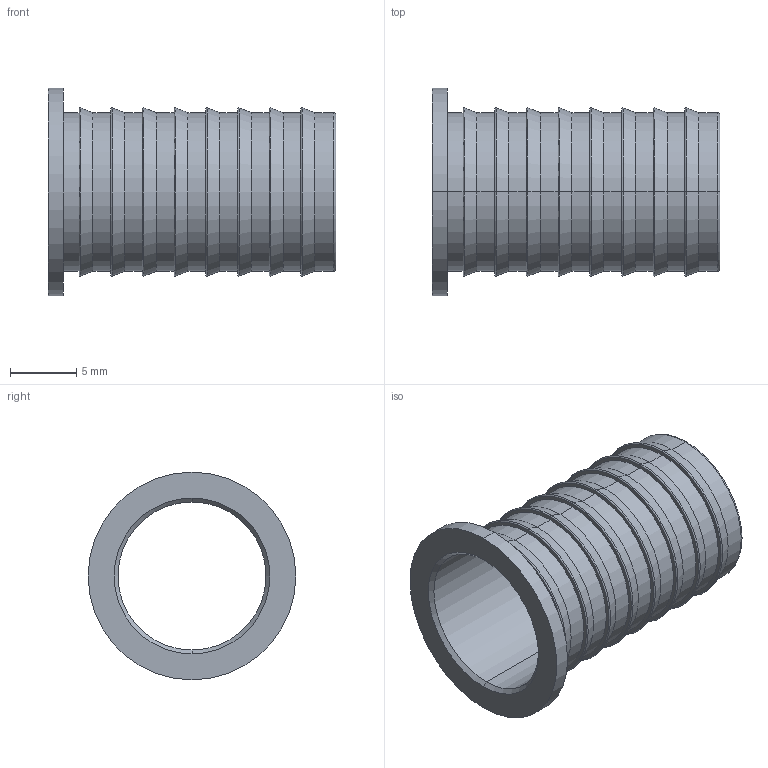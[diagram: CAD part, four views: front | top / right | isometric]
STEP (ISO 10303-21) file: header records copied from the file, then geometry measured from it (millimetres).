
FILE_DESCRIPTION (( 'STEP AP203' ), '1' );
FILE_NAME ('DTI10-08 SS.STEP', '2009-09-08T09:58:22', ( ' ' ), ( '' ), 'SwSTEP 2.0', 'SolidWorks 2008', '' );
FILE_SCHEMA (( 'CONFIG_CONTROL_DESIGN' ));
Length unit declared in the file: millimetre
Products named in the file (1): DTI10-08 SS
Bounding box: 21.8 x 15.72 x 15.72 mm (x, y, z)
Volume: 471 mm3; surface area: 1912.3 mm2
Topology: 1 solids, 1 shells, 70 faces, 140 edges, 80 vertices
Faces by surface type: cylinder 22, cone 20, torus 18, plane 10
Entity records: 1903 total; most frequent: DIRECTION 380, CARTESIAN_POINT 291, ORIENTED_EDGE 280, AXIS2_PLACEMENT_3D 169, EDGE_CURVE 140, CIRCLE 98, EDGE_LOOP 80, VERTEX_POINT 80
